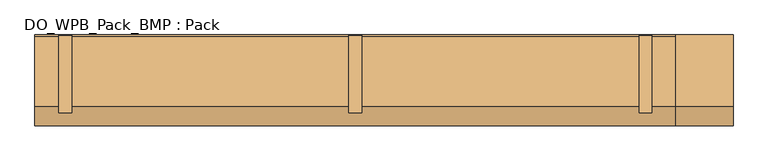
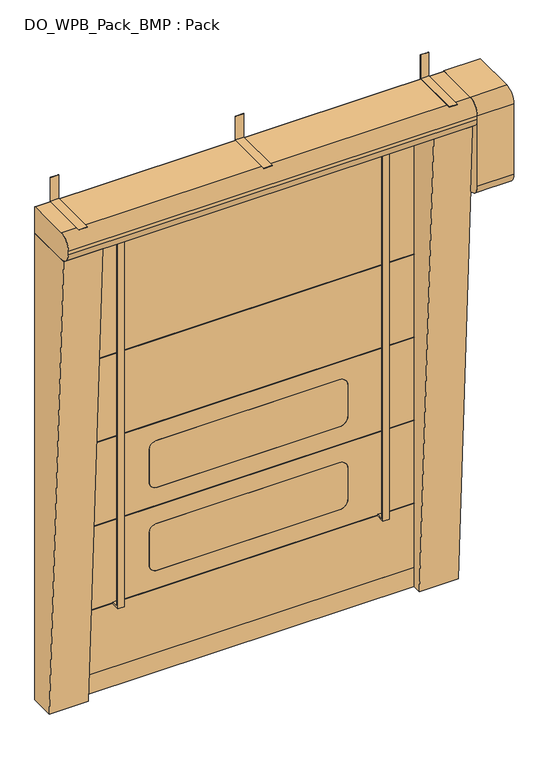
"""IFC4 building model written with IfcOpenShell, lengths in millimetres: door geometry, DO_WPB_Pack_BMP : Pack."""

from ifc_helpers import new_model, si_unit, point, frame, frame_2d, origin, origin_with_axes, place, context, project, spatial, polyline, circle_curve, trimmed, segment, composite_curve, outline, extrude, source, transform, mapped, element, save


def do_wpb_pack_bmp_pack_6119c6c6(model_context):
    return source(origin(), model_context, "Body", "SweptSolid", [
        extrude(outline(composite_curve([segment(trimmed(circle_curve(frame_2d((25.0, 1167.5)), 6.0), [point((31.0, 1167.5))], [point((19.0, 1167.5))], False, "CARTESIAN"), True, "CONTINUOUS"), segment(trimmed(circle_curve(frame_2d((25.0, 1167.5)), 6.0), [point((19.0, 1167.5))], [point((31.0, 1167.5))], False, "CARTESIAN"), True, "CONTINUOUS")], self_intersect=False)), frame((0.0, -10.0, 0.0), z_axis=(0.0, 1.0, 0.0), x_axis=(0.0, 0.0, 1.0)), (0.0, 0.0, 1.0), 10.0),
        extrude(outline(composite_curve([segment(trimmed(circle_curve(frame_2d((25.0, 1067.5)), 6.0), [point((31.0, 1067.5))], [point((19.0, 1067.5))], False, "CARTESIAN"), True, "CONTINUOUS"), segment(trimmed(circle_curve(frame_2d((25.0, 1067.5)), 6.0), [point((19.0, 1067.5))], [point((31.0, 1067.5))], False, "CARTESIAN"), True, "CONTINUOUS")], self_intersect=False)), frame((0.0, -10.0, 0.0), z_axis=(0.0, 1.0, 0.0), x_axis=(0.0, 0.0, 1.0)), (0.0, 0.0, 1.0), 10.0),
        extrude(outline(composite_curve([segment(trimmed(circle_curve(frame_2d((25.0, -1067.5)), 6.0), [point((31.0, -1067.5))], [point((19.0, -1067.5))], False, "CARTESIAN"), True, "CONTINUOUS"), segment(trimmed(circle_curve(frame_2d((25.0, -1067.5)), 6.0), [point((19.0, -1067.5))], [point((31.0, -1067.5))], False, "CARTESIAN"), True, "CONTINUOUS")], self_intersect=False)), frame((0.0, -10.0, 0.0), z_axis=(0.0, 1.0, 0.0), x_axis=(0.0, 0.0, 1.0)), (0.0, 0.0, 1.0), 10.0),
        extrude(outline(composite_curve([segment(trimmed(circle_curve(frame_2d((25.0, -1167.5)), 6.0), [point((31.0, -1167.5))], [point((19.0, -1167.5))], False, "CARTESIAN"), True, "CONTINUOUS"), segment(trimmed(circle_curve(frame_2d((25.0, -1167.5)), 6.0), [point((19.0, -1167.5))], [point((31.0, -1167.5))], False, "CARTESIAN"), True, "CONTINUOUS")], self_intersect=False)), frame((0.0, -10.0, 0.0), z_axis=(0.0, 1.0, 0.0), x_axis=(0.0, 0.0, 1.0)), (0.0, 0.0, 1.0), 10.0),
        extrude(outline(composite_curve([segment(trimmed(circle_curve(frame_2d((1067.5, -116.0)), 6.0), [point((1061.5, -116.0))], [point((1073.5, -116.0))], False, "CARTESIAN"), True, "CONTINUOUS"), segment(polyline([(1073.5, -116.0), (1073.5, -134.0)]), True, "CONTINUOUS"), segment(trimmed(circle_curve(frame_2d((1067.5, -134.0)), 6.0), [point((1073.5, -134.0))], [point((1061.5, -134.0))], False, "CARTESIAN"), True, "CONTINUOUS"), segment(polyline([(1061.5, -134.0), (1061.5, -116.0)]), True, "CONTINUOUS")], self_intersect=False)), origin_with_axes(), (0.0, 0.0, 1.0), 10.0),
        extrude(outline(composite_curve([segment(trimmed(circle_curve(frame_2d((1167.5, -116.0)), 6.0), [point((1161.5, -116.0))], [point((1173.5, -116.0))], False, "CARTESIAN"), True, "CONTINUOUS"), segment(polyline([(1173.5, -116.0), (1173.5, -134.0)]), True, "CONTINUOUS"), segment(trimmed(circle_curve(frame_2d((1167.5, -134.0)), 6.0), [point((1173.5, -134.0))], [point((1161.5, -134.0))], False, "CARTESIAN"), True, "CONTINUOUS"), segment(polyline([(1161.5, -134.0), (1161.5, -116.0)]), True, "CONTINUOUS")], self_intersect=False)), origin_with_axes(), (0.0, 0.0, 1.0), 10.0),
        extrude(outline(composite_curve([segment(trimmed(circle_curve(frame_2d((1067.5, -16.0)), 6.0), [point((1061.5, -16.0))], [point((1073.5, -16.0))], False, "CARTESIAN"), True, "CONTINUOUS"), segment(polyline([(1073.5, -16.0), (1073.5, -34.0)]), True, "CONTINUOUS"), segment(trimmed(circle_curve(frame_2d((1067.5, -34.0)), 6.0), [point((1073.5, -34.0))], [point((1061.5, -34.0))], False, "CARTESIAN"), True, "CONTINUOUS"), segment(polyline([(1061.5, -34.0), (1061.5, -16.0)]), True, "CONTINUOUS")], self_intersect=False)), origin_with_axes(), (0.0, 0.0, 1.0), 10.0),
        extrude(outline(composite_curve([segment(trimmed(circle_curve(frame_2d((1167.5, -16.0)), 6.0), [point((1161.5, -16.0))], [point((1173.5, -16.0))], False, "CARTESIAN"), True, "CONTINUOUS"), segment(polyline([(1173.5, -16.0), (1173.5, -34.0)]), True, "CONTINUOUS"), segment(trimmed(circle_curve(frame_2d((1167.5, -34.0)), 6.0), [point((1173.5, -34.0))], [point((1161.5, -34.0))], False, "CARTESIAN"), True, "CONTINUOUS"), segment(polyline([(1161.5, -34.0), (1161.5, -16.0)]), True, "CONTINUOUS")], self_intersect=False)), origin_with_axes(), (0.0, 0.0, 1.0), 10.0),
        extrude(outline(composite_curve([segment(trimmed(circle_curve(frame_2d((-1067.5, -134.0)), 6.0), [point((-1061.5, -134.0))], [point((-1073.5, -134.0))], False, "CARTESIAN"), True, "CONTINUOUS"), segment(polyline([(-1073.5, -134.0), (-1073.5, -116.0)]), True, "CONTINUOUS"), segment(trimmed(circle_curve(frame_2d((-1067.5, -116.0)), 6.0), [point((-1073.5, -116.0))], [point((-1061.5, -116.0))], False, "CARTESIAN"), True, "CONTINUOUS"), segment(polyline([(-1061.5, -116.0), (-1061.5, -134.0)]), True, "CONTINUOUS")], self_intersect=False)), origin_with_axes(), (0.0, 0.0, 1.0), 10.0),
        extrude(outline(composite_curve([segment(trimmed(circle_curve(frame_2d((-1167.5, -134.0)), 6.0), [point((-1161.5, -134.0))], [point((-1173.5, -134.0))], False, "CARTESIAN"), True, "CONTINUOUS"), segment(polyline([(-1173.5, -134.0), (-1173.5, -116.0)]), True, "CONTINUOUS"), segment(trimmed(circle_curve(frame_2d((-1167.5, -116.0)), 6.0), [point((-1173.5, -116.0))], [point((-1161.5, -116.0))], False, "CARTESIAN"), True, "CONTINUOUS"), segment(polyline([(-1161.5, -116.0), (-1161.5, -134.0)]), True, "CONTINUOUS")], self_intersect=False)), origin_with_axes(), (0.0, 0.0, 1.0), 10.0),
        extrude(outline(composite_curve([segment(trimmed(circle_curve(frame_2d((-1067.5, -34.0)), 6.0), [point((-1061.5, -34.0))], [point((-1073.5, -34.0))], False, "CARTESIAN"), True, "CONTINUOUS"), segment(polyline([(-1073.5, -34.0), (-1073.5, -16.0)]), True, "CONTINUOUS"), segment(trimmed(circle_curve(frame_2d((-1067.5, -16.0)), 6.0), [point((-1073.5, -16.0))], [point((-1061.5, -16.0))], False, "CARTESIAN"), True, "CONTINUOUS"), segment(polyline([(-1061.5, -16.0), (-1061.5, -34.0)]), True, "CONTINUOUS")], self_intersect=False)), origin_with_axes(), (0.0, 0.0, 1.0), 10.0),
        extrude(outline(composite_curve([segment(trimmed(circle_curve(frame_2d((-1167.5, -34.0)), 6.0), [point((-1161.5, -34.0))], [point((-1173.5, -34.0))], False, "CARTESIAN"), True, "CONTINUOUS"), segment(polyline([(-1173.5, -34.0), (-1173.5, -16.0)]), True, "CONTINUOUS"), segment(trimmed(circle_curve(frame_2d((-1167.5, -16.0)), 6.0), [point((-1173.5, -16.0))], [point((-1161.5, -16.0))], False, "CARTESIAN"), True, "CONTINUOUS"), segment(polyline([(-1161.5, -16.0), (-1161.5, -34.0)]), True, "CONTINUOUS")], self_intersect=False)), origin_with_axes(), (0.0, 0.0, 1.0), 10.0),
        extrude(outline(polyline([(0.0, 3303.0), (0.0, 3150.0), (-300.0, 3150.0), (-300.0, 3152.0), (-2.0, 3152.0), (-2.0, 3303.0), (0.0, 3303.0)])), frame((-25.0, 0.0, 0.0), z_axis=(1.0, 0.0, 0.0), x_axis=(0.0, 1.0, 0.0)), (0.0, 0.0, 1.0), 50.0),
        extrude(outline(polyline([(0.0, 3303.0), (0.0, 3150.0), (-300.0, 3150.0), (-300.0, 3152.0), (-2.0, 3152.0), (-2.0, 3303.0), (0.0, 3303.0)])), frame((1092.5, 0.0, 0.0), z_axis=(1.0, 0.0, 0.0), x_axis=(0.0, 1.0, 0.0)), (0.0, 0.0, 1.0), 50.0),
        extrude(outline(polyline([(0.0, 3303.0), (0.0, 3150.0), (-300.0, 3150.0), (-300.0, 3152.0), (-2.0, 3152.0), (-2.0, 3303.0), (0.0, 3303.0)])), frame((-1142.5, 0.0, 0.0), z_axis=(1.0, 0.0, 0.0), x_axis=(0.0, 1.0, 0.0)), (0.0, 0.0, 1.0), 50.0),
        extrude(outline(polyline([(-93.5, 525.0), (-148.5, 525.0), (-148.5, 3055.0), (-93.5, 3055.0), (-93.5, 3045.0), (-138.5, 3045.0), (-138.5, 535.0), (-93.5, 535.0), (-93.5, 525.0)])), frame((780.0, 0.0, 0.0), z_axis=(1.0, 0.0, 0.0), x_axis=(0.0, 1.0, 0.0)), (0.0, 0.0, 1.0), 40.0),
        extrude(outline(polyline([(-93.5, 525.0), (-148.5, 525.0), (-148.5, 3055.0), (-93.5, 3055.0), (-93.5, 3045.0), (-138.5, 3045.0), (-138.5, 535.0), (-93.5, 535.0), (-93.5, 525.0)])), frame((-820.0, 0.0, 0.0), z_axis=(1.0, 0.0, 0.0), x_axis=(0.0, 1.0, 0.0)), (0.0, 0.0, 1.0), 40.0),
        extrude(outline(polyline([(-1000.0, -95.5), (-1000.0, -84.5), (1000.0, -84.5), (1000.0, -95.5), (-1000.0, -95.5)])), frame((0.0, 0.0, 2119.0), z_axis=(0.0, 0.0, 1.0), x_axis=(1.0, 0.0, 0.0)), (0.0, 0.0, 1.0), 2.0),
        extrude(outline(polyline([(-1000.0, -95.5), (-1000.0, -84.5), (1000.0, -84.5), (1000.0, -95.5), (-1000.0, -95.5)])), frame((0.0, 0.0, 1589.0), z_axis=(0.0, 0.0, 1.0), x_axis=(1.0, 0.0, 0.0)), (0.0, 0.0, 1.0), 2.0),
        extrude(outline(polyline([(-1000.0, -95.5), (-1000.0, -84.5), (1000.0, -84.5), (1000.0, -95.5), (-1000.0, -95.5)])), frame((0.0, 0.0, 1059.0), z_axis=(0.0, 0.0, 1.0), x_axis=(1.0, 0.0, 0.0)), (0.0, 0.0, 1.0), 2.0),
        extrude(outline(polyline([(-1000.0, -95.5), (-1000.0, -84.5), (1000.0, -84.5), (1000.0, -95.5), (-1000.0, -95.5)])), frame((0.0, 0.0, 529.0), z_axis=(0.0, 0.0, 1.0), x_axis=(1.0, 0.0, 0.0)), (0.0, 0.0, 1.0), 2.0),
        extrude(outline(composite_curve([segment(trimmed(circle_curve(frame_2d((1225.0, 550.0)), 50.0), [point((1175.0, 550.0))], [point((1225.0, 600.0))], False, "CARTESIAN"), True, "CONTINUOUS"), segment(polyline([(1225.0, 600.0), (1425.0, 600.0)]), True, "CONTINUOUS"), segment(trimmed(circle_curve(frame_2d((1425.0, 550.0)), 50.0), [point((1425.0, 600.0))], [point((1475.0, 550.0))], False, "CARTESIAN"), True, "CONTINUOUS"), segment(polyline([(1475.0, 550.0), (1475.0, -550.0)]), True, "CONTINUOUS"), segment(trimmed(circle_curve(frame_2d((1425.0, -550.0)), 50.0), [point((1475.0, -550.0))], [point((1425.0, -600.0))], False, "CARTESIAN"), True, "CONTINUOUS"), segment(polyline([(1425.0, -600.0), (1225.0, -600.0)]), True, "CONTINUOUS"), segment(trimmed(circle_curve(frame_2d((1225.0, -550.0)), 50.0), [point((1225.0, -600.0))], [point((1175.0, -550.0))], False, "CARTESIAN"), True, "CONTINUOUS"), segment(polyline([(1175.0, -550.0), (1175.0, 550.0)]), True, "CONTINUOUS")], self_intersect=False)), frame((0.0, -93.5, 0.0), z_axis=(0.0, 1.0, 0.0), x_axis=(0.0, 0.0, 1.0)), (0.0, 0.0, 1.0), 7.0),
        extrude(outline(composite_curve([segment(trimmed(circle_curve(frame_2d((695.0, 550.0)), 50.0), [point((645.0, 550.0))], [point((695.0, 600.0))], False, "CARTESIAN"), True, "CONTINUOUS"), segment(polyline([(695.0, 600.0), (895.0, 600.0)]), True, "CONTINUOUS"), segment(trimmed(circle_curve(frame_2d((895.0, 550.0)), 50.0), [point((895.0, 600.0))], [point((945.0, 550.0))], False, "CARTESIAN"), True, "CONTINUOUS"), segment(polyline([(945.0, 550.0), (945.0, -550.0)]), True, "CONTINUOUS"), segment(trimmed(circle_curve(frame_2d((895.0, -550.0)), 50.0), [point((945.0, -550.0))], [point((895.0, -600.0))], False, "CARTESIAN"), True, "CONTINUOUS"), segment(polyline([(895.0, -600.0), (695.0, -600.0)]), True, "CONTINUOUS"), segment(trimmed(circle_curve(frame_2d((695.0, -550.0)), 50.0), [point((695.0, -600.0))], [point((645.0, -550.0))], False, "CARTESIAN"), True, "CONTINUOUS"), segment(polyline([(645.0, -550.0), (645.0, 550.0)]), True, "CONTINUOUS")], self_intersect=False)), frame((0.0, -93.5, 0.0), z_axis=(0.0, 1.0, 0.0), x_axis=(0.0, 0.0, 1.0)), (0.0, 0.0, 1.0), 7.0),
        extrude(outline(polyline([(120.0, -1012.0), (120.0, 1012.0), (3065.0, 1012.0), (3065.0, -1012.0), (120.0, -1012.0)]), holes=[composite_curve([segment(trimmed(circle_curve(frame_2d((695.0, 550.0)), 50.0), [point((695.0, 600.0))], [point((645.0, 550.0))], True, "CARTESIAN"), True, "CONTINUOUS"), segment(polyline([(645.0, 550.0), (645.0, -550.0)]), True, "CONTINUOUS"), segment(trimmed(circle_curve(frame_2d((695.0, -550.0)), 50.0), [point((645.0, -550.0))], [point((695.0, -600.0))], True, "CARTESIAN"), True, "CONTINUOUS"), segment(polyline([(695.0, -600.0), (895.0, -600.0)]), True, "CONTINUOUS"), segment(trimmed(circle_curve(frame_2d((895.0, -550.0)), 50.0), [point((895.0, -600.0))], [point((945.0, -550.0))], True, "CARTESIAN"), True, "CONTINUOUS"), segment(polyline([(945.0, -550.0), (945.0, 550.0)]), True, "CONTINUOUS"), segment(trimmed(circle_curve(frame_2d((895.0, 550.0)), 50.0), [point((945.0, 550.0))], [point((895.0, 600.0))], True, "CARTESIAN"), True, "CONTINUOUS"), segment(polyline([(895.0, 600.0), (695.0, 600.0)]), True, "CONTINUOUS")], self_intersect=False), composite_curve([segment(trimmed(circle_curve(frame_2d((1225.0, 550.0)), 50.0), [point((1225.0, 600.0))], [point((1175.0, 550.0))], True, "CARTESIAN"), True, "CONTINUOUS"), segment(polyline([(1175.0, 550.0), (1175.0, -550.0)]), True, "CONTINUOUS"), segment(trimmed(circle_curve(frame_2d((1225.0, -550.0)), 50.0), [point((1175.0, -550.0))], [point((1225.0, -600.0))], True, "CARTESIAN"), True, "CONTINUOUS"), segment(polyline([(1225.0, -600.0), (1425.0, -600.0)]), True, "CONTINUOUS"), segment(trimmed(circle_curve(frame_2d((1425.0, -550.0)), 50.0), [point((1425.0, -600.0))], [point((1475.0, -550.0))], True, "CARTESIAN"), True, "CONTINUOUS"), segment(polyline([(1475.0, -550.0), (1475.0, 550.0)]), True, "CONTINUOUS"), segment(trimmed(circle_curve(frame_2d((1425.0, 550.0)), 50.0), [point((1475.0, 550.0))], [point((1425.0, 600.0))], True, "CARTESIAN"), True, "CONTINUOUS"), segment(polyline([(1425.0, 600.0), (1225.0, 600.0)]), True, "CONTINUOUS")], self_intersect=False)]), frame((0.0, -93.5, 0.0), z_axis=(0.0, 1.0, 0.0), x_axis=(0.0, 0.0, 1.0)), (0.0, 0.0, 1.0), 7.0),
        extrude(outline(polyline([(-1012.0, -84.5), (1012.0, -84.5), (1012.0, -95.5), (-1012.0, -95.5), (-1012.0, -84.5)])), origin_with_axes(), (0.0, 0.0, 1.0), 120.0),
        extrude(outline(composite_curve([segment(polyline([(0.0, 3150.0), (0.0, 2550.0), (-275.0, 2550.0)]), True, "CONTINUOUS"), segment(trimmed(circle_curve(frame_2d((-275.0, 2625.0)), 75.0), [point((-275.0, 2550.0))], [point((-350.0, 2625.0))], False, "CARTESIAN"), True, "CONTINUOUS"), segment(polyline([(-350.0, 2625.0), (-350.0, 3075.0)]), True, "CONTINUOUS"), segment(trimmed(circle_curve(frame_2d((-275.0, 3075.0)), 75.0), [point((-350.0, 3075.0))], [point((-275.0, 3150.0))], False, "CARTESIAN"), True, "CONTINUOUS"), segment(polyline([(-275.0, 3150.0), (0.0, 3150.0)]), True, "CONTINUOUS")], self_intersect=False)), frame((1235.0, 0.0, 0.0), z_axis=(1.0, 0.0, 0.0), x_axis=(0.0, 1.0, 0.0)), (0.0, 0.0, 1.0), 220.0),
        extrude(outline(composite_curve([segment(trimmed(circle_curve(frame_2d((-5.0, 2985.0)), 5.0), [point((0.0, 2985.0))], [point((-5.0, 2980.0))], False, "CARTESIAN"), True, "CONTINUOUS"), segment(polyline([(-5.0, 2980.0), (-275.0, 2980.0)]), True, "CONTINUOUS"), segment(trimmed(circle_curve(frame_2d((-275.0, 3055.0)), 75.0), [point((-275.0, 2980.0))], [point((-350.0, 3055.0))], False, "CARTESIAN"), True, "CONTINUOUS"), segment(polyline([(-350.0, 3055.0), (-350.0, 3075.0)]), True, "CONTINUOUS"), segment(trimmed(circle_curve(frame_2d((-275.0, 3075.0)), 75.0), [point((-350.0, 3075.0))], [point((-275.0, 3150.0))], False, "CARTESIAN"), True, "CONTINUOUS"), segment(polyline([(-275.0, 3150.0), (-5.0, 3150.0)]), True, "CONTINUOUS"), segment(trimmed(circle_curve(frame_2d((-5.0, 3145.0)), 5.0), [point((-5.0, 3150.0))], [point((0.0, 3145.0))], False, "CARTESIAN"), True, "CONTINUOUS"), segment(polyline([(0.0, 3145.0), (0.0, 2985.0)]), True, "CONTINUOUS")], self_intersect=False)), frame((-1235.0, 0.0, 0.0), z_axis=(1.0, 0.0, 0.0), x_axis=(0.0, 1.0, 0.0)), (0.0, 0.0, 1.0), 2470.0),
        extrude(outline(polyline([(0.0, 0.0), (-150.0, 0.0), (-300.0, 2980.0), (0.0, 2980.0), (0.0, 0.0)])), frame((1000.0, 0.0, 0.0), z_axis=(1.0, 0.0, 0.0), x_axis=(0.0, 1.0, 0.0)), (0.0, 0.0, 1.0), 235.0),
        extrude(outline(polyline([(0.0, 0.0), (-150.0, 0.0), (-300.0, 2980.0), (0.0, 2980.0), (0.0, 0.0)])), frame((-1235.0, 0.0, 0.0), z_axis=(1.0, 0.0, 0.0), x_axis=(0.0, 1.0, 0.0)), (0.0, 0.0, 1.0), 235.0),
    ])


if __name__ == "__main__":
    model = new_model("IFC4")
    model_context = context("Model", 3, world=origin())
    ifc_project = project(units=[si_unit("LENGTHUNIT", "METRE", prefix="MILLI")], contexts=[model_context])
    site = spatial("IfcSite", under=ifc_project)
    building = spatial("IfcBuilding", under=site)
    placement = place(None, origin())
    do_wpb_pack_bmp_pack_shape = do_wpb_pack_bmp_pack_6119c6c6(model_context)
    element("IfcDoor", 1, ObjectType="DO_WPB_Pack_BMP : Pack", at=placement, inside=building, context=model_context, shape_type="MappedRepresentation", body=[
        mapped(do_wpb_pack_bmp_pack_shape, transform((0.0, 0.0, 0.0), x_axis=(1.0, 0.0, 0.0), y_axis=(0.0, 1.0, 0.0), z_axis=(0.0, 0.0, 1.0))),
    ])
    save(model, "model.ifc")
